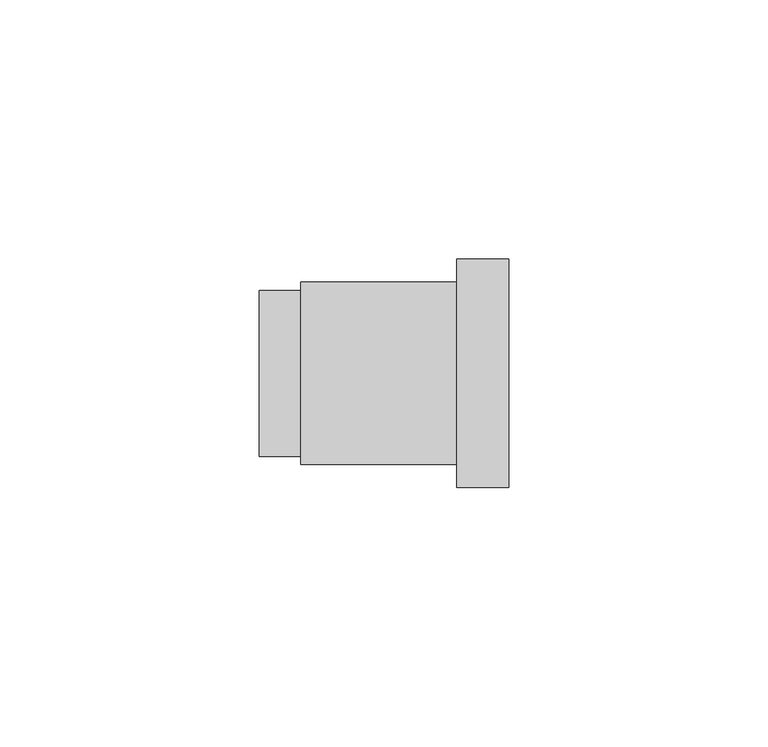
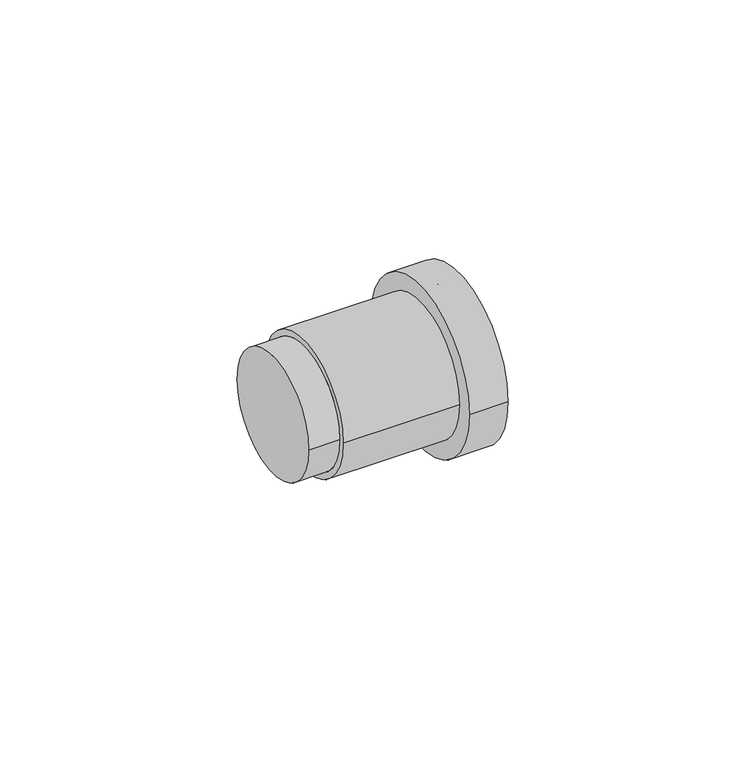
"""IFC4 building model written with IfcOpenShell, lengths in millimetres: pipe fitting geometry, NLRS_52_PIF_UN_PE aansluitsteekmof met lippendichting_geb : DN30-32 / ø32-32."""

from ifc_helpers import new_model, si_unit, frame, origin, place, context, project, spatial, polyline, circle_curve, source, transform, mapped, element, save
from ifc_brep_helpers import plane_surface, cylinder_surface, revolved_surface, advanced_brep


def pipe_fitting_e77b350f(model_context):
    return source(origin(), model_context, "Body", "AdvancedBrep", [
        advanced_brep(
        [(40.0, -22.0, 0.0), (40.0, 22.0, 0.0), (40.0, -16.0, 0.0), (40.0, 16.0, 0.0), (30.0, -22.0, 0.0), (30.0, 22.0, 0.0), (30.0, -17.6, 0.0), (30.0, 17.6, 0.0), (0.0, -17.6, 0.0), (0.0, 17.6, 0.0), (0.0, -16.0, 0.0), (0.0, 16.0, 0.0), (0.0, -16.0, 0.0), (0.0, 16.0, 0.0), (-8.0, -16.0, 0.0), (-8.0, 16.0, 0.0)],
        [
            (0, 1, circle_curve(frame((40.0, 0.0, 0.0), z_axis=(1.0, 0.0, 0.0), x_axis=(0.0, 1.0, 0.0)), 22.0)),
            (1, 0, circle_curve(frame((40.0, 0.0, 0.0), z_axis=(1.0, 0.0, 0.0), x_axis=(0.0, 1.0, 0.0)), 22.0)),
            (2, 3, circle_curve(frame((40.0, 0.0, 0.0), z_axis=(-1.0, 0.0, 0.0), x_axis=(0.0, 1.0, 0.0)), 16.0)),
            (3, 2, circle_curve(frame((40.0, 0.0, 0.0), z_axis=(-1.0, 0.0, 0.0), x_axis=(0.0, 1.0, 0.0)), 16.0)),
            (4, 5, circle_curve(frame((30.0, 0.0, 0.0), z_axis=(-1.0, 0.0, 0.0), x_axis=(0.0, 1.0, 0.0)), 22.0)),
            (5, 4, circle_curve(frame((30.0, 0.0, 0.0), z_axis=(-1.0, 0.0, 0.0), x_axis=(0.0, 1.0, 0.0)), 22.0)),
            (6, 7, circle_curve(frame((30.0, 0.0, 0.0), z_axis=(1.0, 0.0, 0.0), x_axis=(0.0, 1.0, 0.0)), 17.6)),
            (7, 6, circle_curve(frame((30.0, 0.0, 0.0), z_axis=(1.0, 0.0, 0.0), x_axis=(0.0, 1.0, 0.0)), 17.6)),
            (0, 4),
            (5, 1),
            (8, 9, circle_curve(frame((0.0, 0.0, 0.0), z_axis=(-1.0, 0.0, 0.0), x_axis=(0.0, 1.0, 0.0)), 17.6)),
            (9, 8, circle_curve(frame((0.0, 0.0, 0.0), z_axis=(-1.0, 0.0, 0.0), x_axis=(0.0, 1.0, 0.0)), 17.6)),
            (10, 11, circle_curve(frame((0.0, 0.0, 0.0), z_axis=(1.0, 0.0, 0.0), x_axis=(0.0, 1.0, 0.0)), 16.0)),
            (11, 10, circle_curve(frame((0.0, 0.0, 0.0), z_axis=(1.0, 0.0, 0.0), x_axis=(0.0, 1.0, 0.0)), 16.0)),
            (2, 12),
            (12, 13, circle_curve(frame((0.0, 0.0, 0.0), z_axis=(-1.0, 0.0, 0.0), x_axis=(0.0, 1.0, 0.0)), 16.0)),
            (13, 3),
            (13, 12, circle_curve(frame((0.0, 0.0, 0.0), z_axis=(-1.0, 0.0, 0.0), x_axis=(0.0, 1.0, 0.0)), 16.0)),
            (9, 7),
            (6, 8),
            (14, 15, circle_curve(frame((-8.0, 0.0, 0.0), z_axis=(-1.0, 0.0, 0.0), x_axis=(0.0, 1.0, 0.0)), 16.0)),
            (15, 14, circle_curve(frame((-8.0, 0.0, 0.0), z_axis=(-1.0, 0.0, 0.0), x_axis=(0.0, 1.0, 0.0)), 16.0)),
            (15, 11),
            (10, 14),
        ],
        [
            plane_surface(frame((40.0, 17.6, 0.0), z_axis=(1.0, 0.0, 0.0), x_axis=(0.0, 0.0, -1.0))),
            plane_surface(frame((30.0, 17.6, 0.0), z_axis=(-1.0, 0.0, 0.0), x_axis=(0.0, 0.0, 1.0))),
            cylinder_surface(frame((0.0, 0.0, 0.0), z_axis=(1.0, 0.0, 0.0), x_axis=(0.0, 1.0, 0.0)), 22.0),
            plane_surface(frame((0.0, 16.0, 0.0), z_axis=(-1.0, 0.0, 0.0), x_axis=(0.0, 0.0, 1.0))),
            revolved_surface(polyline([(0.0, 16.0, 0.0), (40.0, 16.0, 0.0)]), (0.0, 0.0, 0.0), (-1.0, 0.0, 0.0)),
            cylinder_surface(frame((0.0, 0.0, 0.0), z_axis=(1.0, 0.0, 0.0), x_axis=(0.0, 1.0, 0.0)), 17.6),
            plane_surface(frame((0.0, 16.0, 0.0), z_axis=(1.0, 0.0, 0.0), x_axis=(0.0, 0.0, 1.0))),
            plane_surface(frame((-8.0, 16.0, 0.0), z_axis=(-1.0, 0.0, 0.0), x_axis=(0.0, 0.0, -1.0))),
            cylinder_surface(frame((-8.0, 0.0, 0.0), z_axis=(1.0, 0.0, 0.0), x_axis=(0.0, 1.0, 0.0)), 16.0),
        ],
        [
            (0, [[1, 2], [3, 4]]),
            (1, [[5, 6], [7, 8]]),
            (2, [[-1, 9, -6, 10]]),
            (2, [[-2, -10, -5, -9]]),
            (3, [[11, 12], [13, 14]]),
            (4, [[-3, 15, 16, 17]]),
            (4, [[-4, -17, 18, -15]]),
            (5, [[-12, 19, -7, 20]]),
            (5, [[-11, -20, -8, -19]]),
            (6, [[-16, -18]]),
            (7, [[21, 22]]),
            (8, [[-22, 23, -13, 24]]),
            (8, [[-21, -24, -14, -23]]),
        ],
    ),
    ])


if __name__ == "__main__":
    model = new_model("IFC4")
    model_context = context("Model", 3, world=origin())
    ifc_project = project(units=[si_unit("LENGTHUNIT", "METRE", prefix="MILLI")], contexts=[model_context])
    site = spatial("IfcSite", under=ifc_project)
    building = spatial("IfcBuilding", under=site)
    placement = place(None, origin())
    pipe_fitting_shape = pipe_fitting_e77b350f(model_context)
    element("IfcPipeFitting", 1, ObjectType="NLRS_52_PIF_UN_PE aansluitsteekmof met lippendichting_geb : DN30-32 / ø32-32", at=placement, inside=building, context=model_context, shape_type="MappedRepresentation", body=[
        mapped(pipe_fitting_shape, transform((0.0, 0.0, 0.0), x_axis=(1.0, 0.0, 0.0), y_axis=(0.0, 1.0, 0.0), z_axis=(0.0, 0.0, 1.0))),
    ])
    save(model, "model.ifc")
